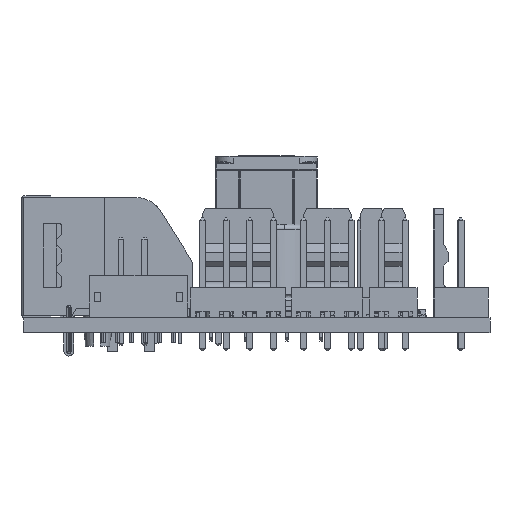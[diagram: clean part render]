
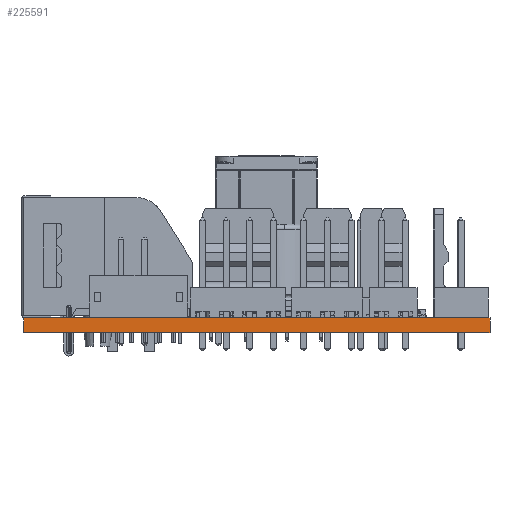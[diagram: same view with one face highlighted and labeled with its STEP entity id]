
A CAD part, front view. The second image highlights one B-rep face of the part: STEP entity #225591.
In plain terms, the highlighted planar face has unit normal (0, -1, 0).
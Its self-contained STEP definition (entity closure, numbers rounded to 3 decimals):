
#225410 = PLANE('',#225411);
#225411 = AXIS2_PLACEMENT_3D('',#225412,#225413,#225414);
#225412 = CARTESIAN_POINT('',(0.,55.,0.));
#225413 = DIRECTION('',(1.,0.,0.));
#225414 = DIRECTION('',(0.,-1.,0.));
#225435 = VERTEX_POINT('',#225436);
#225436 = CARTESIAN_POINT('',(0.,0.,1.6));
#225450 = PLANE('',#225451);
#225451 = AXIS2_PLACEMENT_3D('',#225452,#225453,#225454);
#225452 = CARTESIAN_POINT('',(25.,27.5,1.6));
#225453 = DIRECTION('',(0.,0.,1.));
#225454 = DIRECTION('',(1.,0.,0.));
#225462 = EDGE_CURVE('',#225463,#225435,#225465,.T.);
#225463 = VERTEX_POINT('',#225464);
#225464 = CARTESIAN_POINT('',(0.,0.,0.));
#225465 = SURFACE_CURVE('',#225466,(#225470,#225477),.PCURVE_S1.);
#225466 = LINE('',#225467,#225468);
#225467 = CARTESIAN_POINT('',(0.,0.,0.));
#225468 = VECTOR('',#225469,1.);
#225469 = DIRECTION('',(0.,0.,1.));
#225470 = PCURVE('',#225410,#225471);
#225471 = DEFINITIONAL_REPRESENTATION('',(#225472),#225476);
#225472 = LINE('',#225473,#225474);
#225473 = CARTESIAN_POINT('',(55.,0.));
#225474 = VECTOR('',#225475,1.);
#225475 = DIRECTION('',(0.,-1.));
#225476 = ( GEOMETRIC_REPRESENTATION_CONTEXT(2) 
PARAMETRIC_REPRESENTATION_CONTEXT() REPRESENTATION_CONTEXT('2D SPACE',''
  ) );
#225477 = PCURVE('',#225478,#225483);
#225478 = PLANE('',#225479);
#225479 = AXIS2_PLACEMENT_3D('',#225480,#225481,#225482);
#225480 = CARTESIAN_POINT('',(0.,0.,0.));
#225481 = DIRECTION('',(0.,1.,0.));
#225482 = DIRECTION('',(1.,0.,0.));
#225483 = DEFINITIONAL_REPRESENTATION('',(#225484),#225488);
#225484 = LINE('',#225485,#225486);
#225485 = CARTESIAN_POINT('',(0.,0.));
#225486 = VECTOR('',#225487,1.);
#225487 = DIRECTION('',(0.,-1.));
#225488 = ( GEOMETRIC_REPRESENTATION_CONTEXT(2) 
PARAMETRIC_REPRESENTATION_CONTEXT() REPRESENTATION_CONTEXT('2D SPACE',''
  ) );
#225504 = PLANE('',#225505);
#225505 = AXIS2_PLACEMENT_3D('',#225506,#225507,#225508);
#225506 = CARTESIAN_POINT('',(25.,27.5,0.));
#225507 = DIRECTION('',(0.,0.,1.));
#225508 = DIRECTION('',(1.,0.,0.));
#225537 = PLANE('',#225538);
#225538 = AXIS2_PLACEMENT_3D('',#225539,#225540,#225541);
#225539 = CARTESIAN_POINT('',(50.,0.,0.));
#225540 = DIRECTION('',(-1.,0.,0.));
#225541 = DIRECTION('',(0.,1.,0.));
#225591 = ADVANCED_FACE('',(#225592),#225478,.F.);
#225592 = FACE_BOUND('',#225593,.F.);
#225593 = EDGE_LOOP('',(#225594,#225595,#225618,#225641));
#225594 = ORIENTED_EDGE('',*,*,#225462,.T.);
#225595 = ORIENTED_EDGE('',*,*,#225596,.T.);
#225596 = EDGE_CURVE('',#225435,#225597,#225599,.T.);
#225597 = VERTEX_POINT('',#225598);
#225598 = CARTESIAN_POINT('',(50.,0.,1.6));
#225599 = SURFACE_CURVE('',#225600,(#225604,#225611),.PCURVE_S1.);
#225600 = LINE('',#225601,#225602);
#225601 = CARTESIAN_POINT('',(0.,0.,1.6));
#225602 = VECTOR('',#225603,1.);
#225603 = DIRECTION('',(1.,0.,0.));
#225604 = PCURVE('',#225478,#225605);
#225605 = DEFINITIONAL_REPRESENTATION('',(#225606),#225610);
#225606 = LINE('',#225607,#225608);
#225607 = CARTESIAN_POINT('',(0.,-1.6));
#225608 = VECTOR('',#225609,1.);
#225609 = DIRECTION('',(1.,0.));
#225610 = ( GEOMETRIC_REPRESENTATION_CONTEXT(2) 
PARAMETRIC_REPRESENTATION_CONTEXT() REPRESENTATION_CONTEXT('2D SPACE',''
  ) );
#225611 = PCURVE('',#225450,#225612);
#225612 = DEFINITIONAL_REPRESENTATION('',(#225613),#225617);
#225613 = LINE('',#225614,#225615);
#225614 = CARTESIAN_POINT('',(-25.,-27.5));
#225615 = VECTOR('',#225616,1.);
#225616 = DIRECTION('',(1.,0.));
#225617 = ( GEOMETRIC_REPRESENTATION_CONTEXT(2) 
PARAMETRIC_REPRESENTATION_CONTEXT() REPRESENTATION_CONTEXT('2D SPACE',''
  ) );
#225618 = ORIENTED_EDGE('',*,*,#225619,.F.);
#225619 = EDGE_CURVE('',#225620,#225597,#225622,.T.);
#225620 = VERTEX_POINT('',#225621);
#225621 = CARTESIAN_POINT('',(50.,0.,0.));
#225622 = SURFACE_CURVE('',#225623,(#225627,#225634),.PCURVE_S1.);
#225623 = LINE('',#225624,#225625);
#225624 = CARTESIAN_POINT('',(50.,0.,0.));
#225625 = VECTOR('',#225626,1.);
#225626 = DIRECTION('',(0.,0.,1.));
#225627 = PCURVE('',#225478,#225628);
#225628 = DEFINITIONAL_REPRESENTATION('',(#225629),#225633);
#225629 = LINE('',#225630,#225631);
#225630 = CARTESIAN_POINT('',(50.,0.));
#225631 = VECTOR('',#225632,1.);
#225632 = DIRECTION('',(0.,-1.));
#225633 = ( GEOMETRIC_REPRESENTATION_CONTEXT(2) 
PARAMETRIC_REPRESENTATION_CONTEXT() REPRESENTATION_CONTEXT('2D SPACE',''
  ) );
#225634 = PCURVE('',#225537,#225635);
#225635 = DEFINITIONAL_REPRESENTATION('',(#225636),#225640);
#225636 = LINE('',#225637,#225638);
#225637 = CARTESIAN_POINT('',(0.,0.));
#225638 = VECTOR('',#225639,1.);
#225639 = DIRECTION('',(0.,-1.));
#225640 = ( GEOMETRIC_REPRESENTATION_CONTEXT(2) 
PARAMETRIC_REPRESENTATION_CONTEXT() REPRESENTATION_CONTEXT('2D SPACE',''
  ) );
#225641 = ORIENTED_EDGE('',*,*,#225642,.F.);
#225642 = EDGE_CURVE('',#225463,#225620,#225643,.T.);
#225643 = SURFACE_CURVE('',#225644,(#225648,#225655),.PCURVE_S1.);
#225644 = LINE('',#225645,#225646);
#225645 = CARTESIAN_POINT('',(0.,0.,0.));
#225646 = VECTOR('',#225647,1.);
#225647 = DIRECTION('',(1.,0.,0.));
#225648 = PCURVE('',#225478,#225649);
#225649 = DEFINITIONAL_REPRESENTATION('',(#225650),#225654);
#225650 = LINE('',#225651,#225652);
#225651 = CARTESIAN_POINT('',(0.,0.));
#225652 = VECTOR('',#225653,1.);
#225653 = DIRECTION('',(1.,0.));
#225654 = ( GEOMETRIC_REPRESENTATION_CONTEXT(2) 
PARAMETRIC_REPRESENTATION_CONTEXT() REPRESENTATION_CONTEXT('2D SPACE',''
  ) );
#225655 = PCURVE('',#225504,#225656);
#225656 = DEFINITIONAL_REPRESENTATION('',(#225657),#225661);
#225657 = LINE('',#225658,#225659);
#225658 = CARTESIAN_POINT('',(-25.,-27.5));
#225659 = VECTOR('',#225660,1.);
#225660 = DIRECTION('',(1.,0.));
#225661 = ( GEOMETRIC_REPRESENTATION_CONTEXT(2) 
PARAMETRIC_REPRESENTATION_CONTEXT() REPRESENTATION_CONTEXT('2D SPACE',''
  ) );
